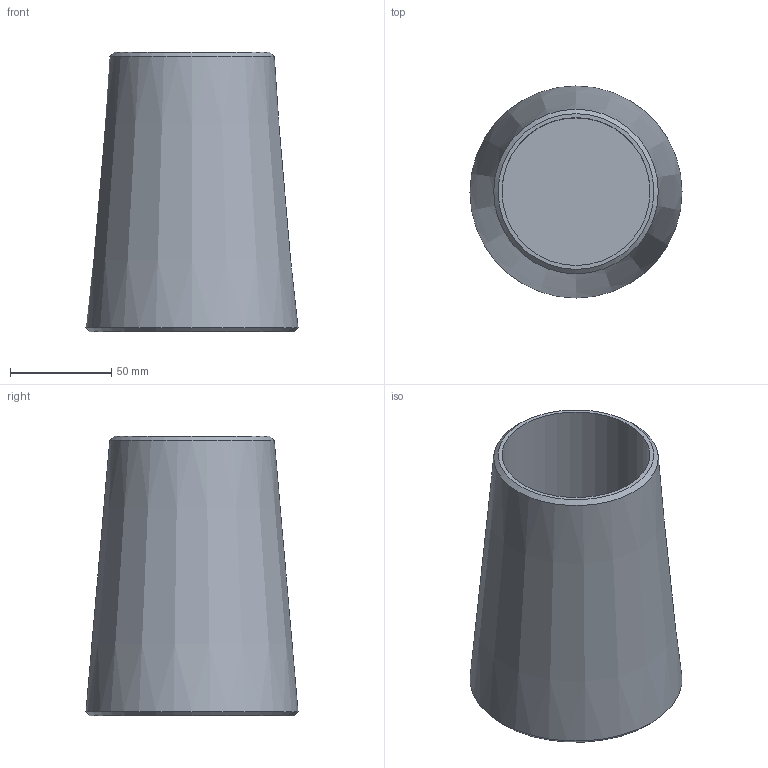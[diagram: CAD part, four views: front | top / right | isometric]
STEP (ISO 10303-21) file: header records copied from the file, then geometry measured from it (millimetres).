
FILE_DESCRIPTION(/* description */ (''),/* implementation_level */ '2;1');
FILE_NAME(/* name */ 'C:\Vault_WS\Designs\SB\01-PX\Verzinkt\ZSS\520 - Kontermutter\520-070-KMU.stp',/* time_stamp */ '2020-06-18T12:36:18+02:00',/* author */ ('schwarz'),/* organization */ (''),/* preprocessor_version */ 'ST-DEVELOPER v16.1',/* originating_system */ 'Autodesk Inventor 2016',/* authorisation */ '');
FILE_SCHEMA (('AUTOMOTIVE_DESIGN { 1 0 10303 214 3 1 1 }'));
Length unit declared in the file: millimetre
Products named in the file (1): Kontermutter 520 070 Kunde
Bounding box: 104.65 x 104.65 x 138 mm (x, y, z)
Volume: 508966.4 mm3; surface area: 77151 mm2
Topology: 1 solids, 1 shells, 7 faces, 10 edges, 6 vertices
Faces by surface type: cone 3, plane 3, cylinder 1
Full cylindrical faces by diameter (mm): 73 x1
Entity records: 158 total; most frequent: DIRECTION 28, CARTESIAN_POINT 20, AXIS2_PLACEMENT_3D 14, EDGE_LOOP 12, ORIENTED_EDGE 12, FACE_OUTER_BOUND 7, ADVANCED_FACE 7, CIRCLE 6
